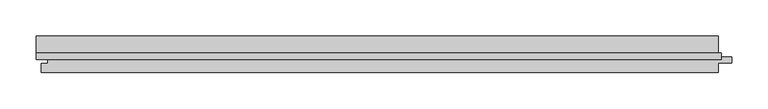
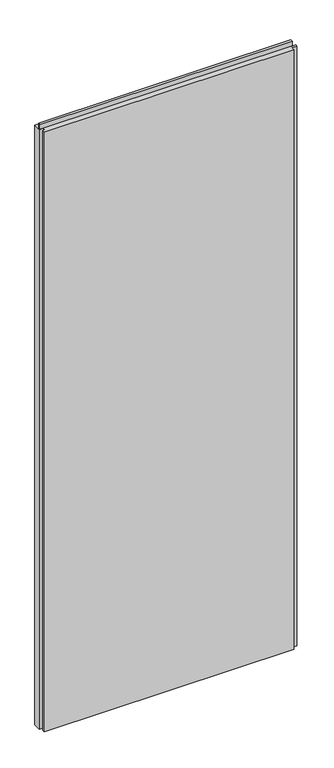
"""IFC4 building model written with IfcOpenShell, lengths in millimetres: plate geometry, Trimo_Qbiss Screen_Normal Panel-VERTICAL : HR - FB."""

from ifc_helpers import new_model, si_unit, frame, origin, place, context, project, spatial, polyline, outline, extrude, source, transform, mapped, element, save


def plate_80828e11(model_context):
    return source(origin(), model_context, "Body", "SweptSolid", [
        extrude(outline(polyline([(-472.2, 93.9), (-472.2, 102.6), (472.2, 102.6), (472.2, 93.9), (-472.2, 93.9)])), frame((0.0, 0.0, 2390.5), z_axis=(0.0, 0.0, 1.0), x_axis=(1.0, 0.0, 0.0)), (0.0, 0.0, 1.0), 19.0),
        extrude(outline(polyline([(468.2, 97.0), (486.7, 97.0), (486.7, 89.0), (468.2, 89.0), (468.2, 76.0), (-465.2, 76.0), (-465.2, 88.0), (-456.7, 88.0), (-456.7, 98.0), (-472.2, 98.0), (-472.2, 126.0), (468.2, 126.0), (468.2, 97.0)])), frame((0.0, 0.0, 12.5), z_axis=(0.0, 0.0, 1.0), x_axis=(1.0, 0.0, 0.0)), (0.0, 0.0, 1.0), 2375.0),
    ])


if __name__ == "__main__":
    model = new_model("IFC4")
    model_context = context("Model", 3, world=origin())
    ifc_project = project(units=[si_unit("LENGTHUNIT", "METRE", prefix="MILLI")], contexts=[model_context])
    site = spatial("IfcSite", under=ifc_project)
    building = spatial("IfcBuilding", under=site)
    placement = place(None, origin())
    plate_shape = plate_80828e11(model_context)
    element("IfcPlate", 1, ObjectType="Trimo_Qbiss Screen_Normal Panel-VERTICAL : HR - FB", at=placement, inside=building, context=model_context, shape_type="MappedRepresentation", body=[
        mapped(plate_shape, transform((0.0, 0.0, 0.0), x_axis=(1.0, 0.0, 0.0), y_axis=(0.0, 1.0, 0.0), z_axis=(0.0, 0.0, 1.0))),
    ])
    save(model, "model.ifc")
